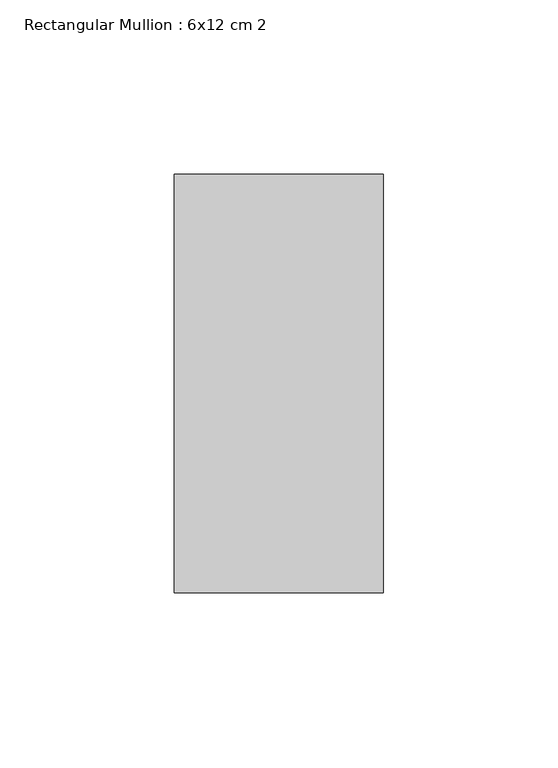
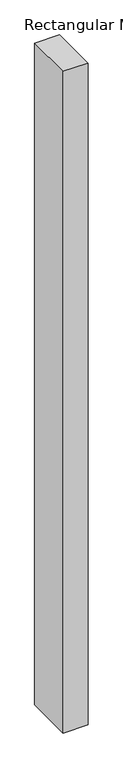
"""IFC4 building model written with IfcOpenShell, lengths in millimetres: member geometry, Rectangular Mullion : 6x12 cm 2."""

from ifc_helpers import new_model, si_unit, frame, origin, place, context, project, spatial, polyline, outline, extrude, source, transform, mapped, element, save


def rectangular_mullion_6x12_cm_2_3e6de0cc(model_context):
    return source(origin(), model_context, "Body", "SweptSolid", [
        extrude(outline(polyline([(0.0, 205.0), (0.0, 85.0), (-60.0, 85.0), (-60.0, 205.0), (0.0, 205.0)])), frame((0.0, 0.0, -1695.8936418), z_axis=(0.0, 0.0, 1.0), x_axis=(1.0, 0.0, 0.0)), (0.0, 0.0, 1.0), 1695.8936418),
    ])


if __name__ == "__main__":
    model = new_model("IFC4")
    model_context = context("Model", 3, world=origin())
    ifc_project = project(units=[si_unit("LENGTHUNIT", "METRE", prefix="MILLI")], contexts=[model_context])
    site = spatial("IfcSite", under=ifc_project)
    building = spatial("IfcBuilding", under=site)
    placement = place(None, origin())
    rectangular_mullion_6x12_cm_2_shape = rectangular_mullion_6x12_cm_2_3e6de0cc(model_context)
    element("IfcMember", 1, ObjectType="Rectangular Mullion : 6x12 cm 2", at=placement, inside=building, context=model_context, shape_type="MappedRepresentation", body=[
        mapped(rectangular_mullion_6x12_cm_2_shape, transform((0.0, 0.0, 0.0), x_axis=(1.0, 0.0, 0.0), y_axis=(0.0, 1.0, 0.0), z_axis=(0.0, 0.0, 1.0))),
    ])
    save(model, "model.ifc")
